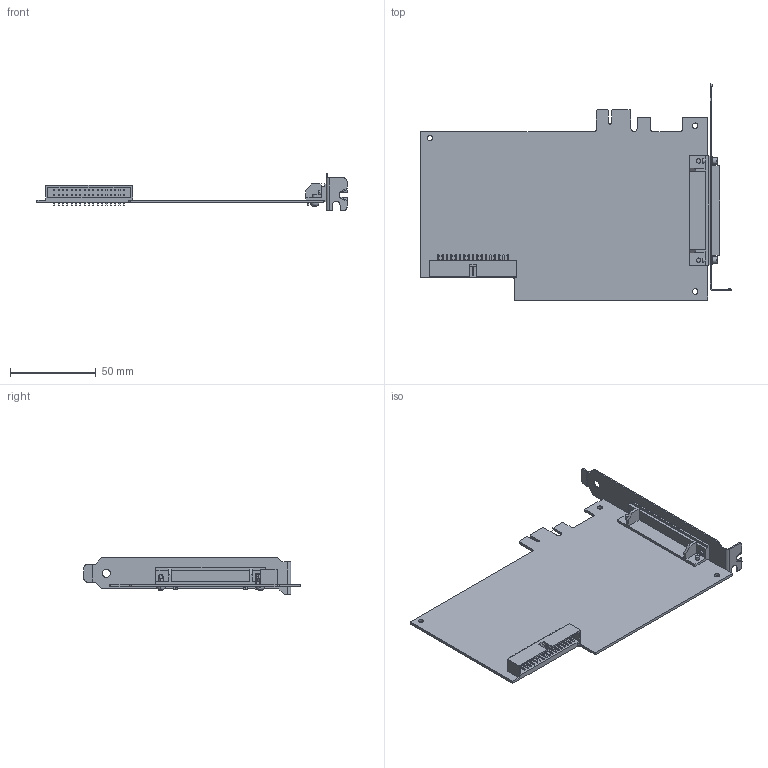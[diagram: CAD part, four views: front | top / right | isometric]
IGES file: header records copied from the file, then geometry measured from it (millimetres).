
Start section:  PTC IGES file: cu_pcie-6612.igs
Global section: file name: cu_pcie-6612.igs; native system: Pro/ENGINEER by Parametric Technology Corporation; preprocessor: 2011490; author: dgraves; organization: Unknown; date: 20131113.104328; units: inch
Bounding box: 181.16 x 126.18 x 21.59 mm (x, y, z)
Surface area: 44011.1 mm2 (no closed solid volume)
Topology: 0 solids, 0 shells, 1240 faces, 5964 edges, 5939 vertices
Faces by surface type: bspline 747, revolution 493
